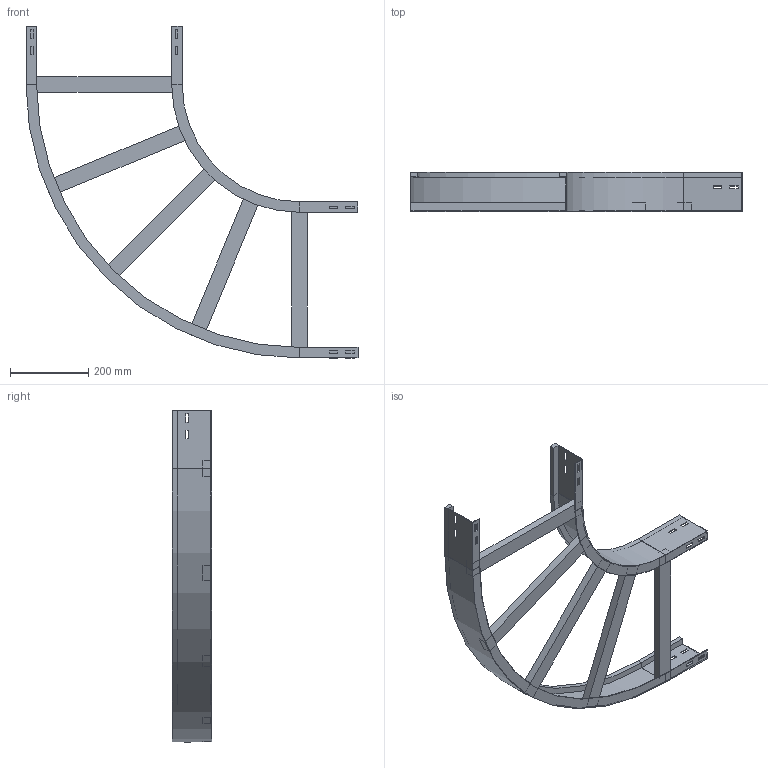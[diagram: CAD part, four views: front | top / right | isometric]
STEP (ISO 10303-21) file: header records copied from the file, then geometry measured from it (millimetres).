
FILE_DESCRIPTION (( 'STEP AP214' ), '1' );
FILE_NAME ('A2_10B3D400.step', '2025-02-21T15:22:55', ( '' ), ( '' ), 'SwSTEP 2.0', 'SolidWorks 2023', '' );
FILE_SCHEMA (( 'AUTOMOTIVE_DESIGN' ));
Length unit declared in the file: millimetre
Products named in the file (4): A2_LONGH.ESTERNO 90°_H100_R300+400; TRAVERSINO_400; A2_LONGH.INTERNO 90°_H100_R300; A2_10B3D400
Assembly tree (7 placements, depth 2):
  A2_10B3D400
    A2_LONGH.INTERNO 90°_H100_R300
    A2_LONGH.ESTERNO 90°_H100_R300+400
    TRAVERSINO_400  x5
Bounding box: 850 x 100 x 850 mm (x, y, z)
Volume: 2558364 mm3; surface area: 867223.7 mm2
Topology: 7 solids, 7 shells, 146 faces, 364 edges, 232 vertices
Faces by surface type: plane 138, cylinder 8
Entity records: 3837 total; most frequent: CARTESIAN_POINT 648, ORIENTED_EDGE 632, DIRECTION 596, EDGE_CURVE 316, VECTOR 300, LINE 300, VERTEX_POINT 200, EDGE_LOOP 154
